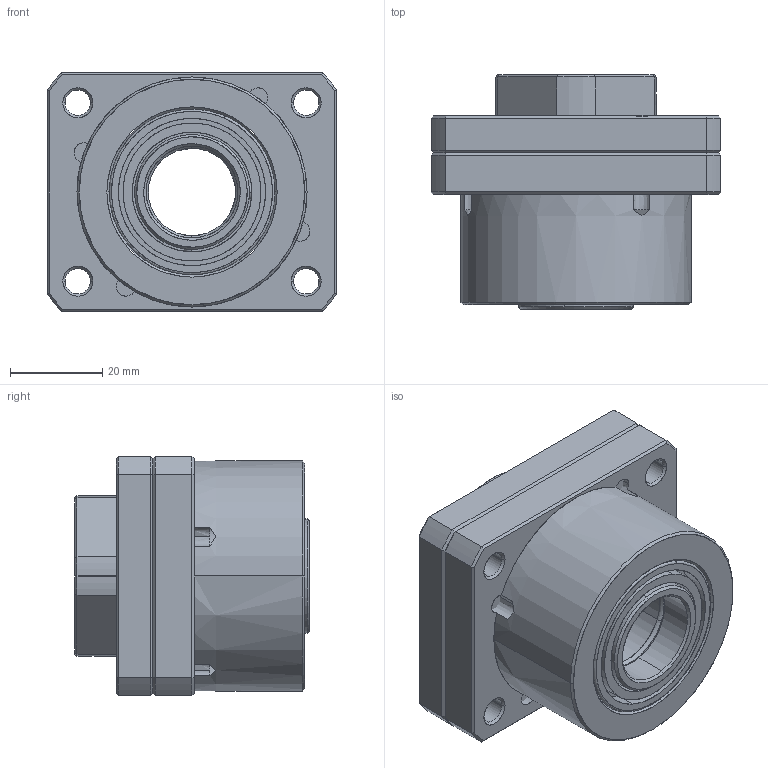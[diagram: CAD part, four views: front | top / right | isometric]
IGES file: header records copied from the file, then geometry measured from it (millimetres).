
Start section: SolidWorks IGES file using analytic representation for surfaces
Global section: file name: C:\Users\117\Desktop\FKA20L ｲﾕｦXｹﾏA.IGS; native system: SolidWorks 2018; preprocessor: SolidWorks 2018; author: 117; date: 210929.105707; units: millimetre
Bounding box: 63 x 51 x 52 mm (x, y, z)
Surface area: 26031.8 mm2 (no closed solid volume)
Topology: 0 solids, 0 shells, 244 faces, 3306 edges, 3306 vertices
Faces by surface type: revolution 147, bspline 97
